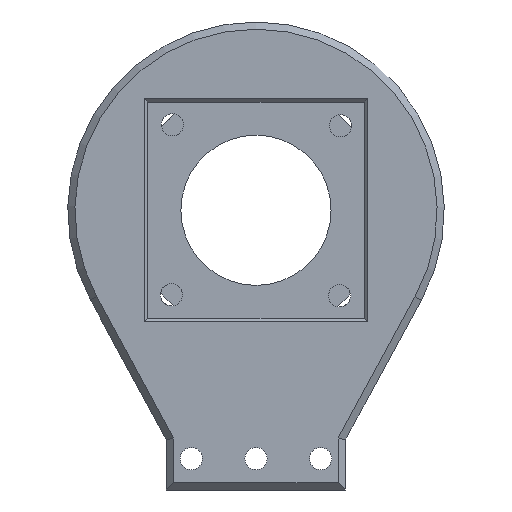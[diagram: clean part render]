
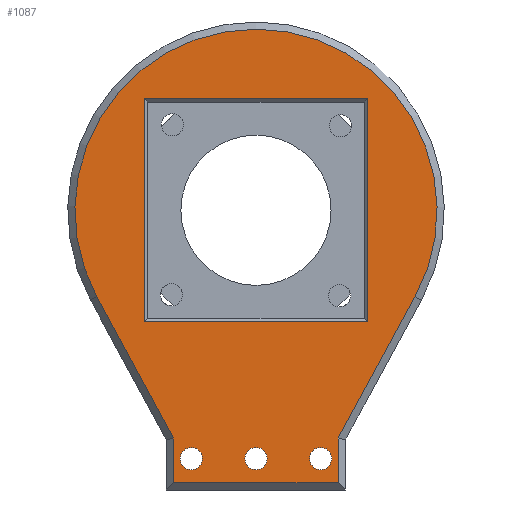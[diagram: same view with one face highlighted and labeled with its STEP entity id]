
A CAD part, front view. The second image highlights one B-rep face of the part: STEP entity #1087.
In plain terms, the highlighted planar face has unit normal (0, -1, 0).
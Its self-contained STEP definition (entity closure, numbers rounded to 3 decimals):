
#38=FACE_BOUND('',#184,.T.);
#39=FACE_BOUND('',#185,.T.);
#40=FACE_BOUND('',#186,.T.);
#41=FACE_BOUND('',#187,.T.);
#63=CIRCLE('',#1172,50.5);
#64=CIRCLE('',#1173,3.1);
#65=CIRCLE('',#1174,3.1);
#66=CIRCLE('',#1175,3.1);
#120=FACE_OUTER_BOUND('',#183,.T.);
#183=EDGE_LOOP('',(#793,#794,#795,#796,#797,#798));
#184=EDGE_LOOP('',(#799));
#185=EDGE_LOOP('',(#800));
#186=EDGE_LOOP('',(#801));
#187=EDGE_LOOP('',(#802,#803,#804,#805));
#290=LINE('',#1709,#395);
#293=LINE('',#1715,#398);
#294=LINE('',#1717,#399);
#295=LINE('',#1721,#400);
#296=LINE('',#1722,#401);
#297=LINE('',#1731,#402);
#298=LINE('',#1733,#403);
#299=LINE('',#1735,#404);
#300=LINE('',#1736,#405);
#395=VECTOR('',#1355,10.);
#398=VECTOR('',#1360,10.);
#399=VECTOR('',#1361,10.);
#400=VECTOR('',#1364,10.);
#401=VECTOR('',#1365,10.);
#402=VECTOR('',#1372,10.);
#403=VECTOR('',#1373,10.);
#404=VECTOR('',#1374,10.);
#405=VECTOR('',#1375,10.);
#495=VERTEX_POINT('',#1706);
#496=VERTEX_POINT('',#1708);
#498=VERTEX_POINT('',#1714);
#499=VERTEX_POINT('',#1716);
#500=VERTEX_POINT('',#1718);
#501=VERTEX_POINT('',#1720);
#502=VERTEX_POINT('',#1723);
#503=VERTEX_POINT('',#1725);
#504=VERTEX_POINT('',#1727);
#505=VERTEX_POINT('',#1729);
#506=VERTEX_POINT('',#1730);
#507=VERTEX_POINT('',#1732);
#508=VERTEX_POINT('',#1734);
#607=EDGE_CURVE('',#495,#496,#290,.T.);
#610=EDGE_CURVE('',#498,#495,#293,.T.);
#611=EDGE_CURVE('',#499,#498,#294,.T.);
#612=EDGE_CURVE('',#500,#499,#63,.T.);
#613=EDGE_CURVE('',#501,#500,#295,.T.);
#614=EDGE_CURVE('',#496,#501,#296,.T.);
#615=EDGE_CURVE('',#502,#502,#64,.T.);
#616=EDGE_CURVE('',#503,#503,#65,.T.);
#617=EDGE_CURVE('',#504,#504,#66,.T.);
#618=EDGE_CURVE('',#505,#506,#297,.T.);
#619=EDGE_CURVE('',#507,#505,#298,.T.);
#620=EDGE_CURVE('',#508,#507,#299,.T.);
#621=EDGE_CURVE('',#506,#508,#300,.T.);
#793=ORIENTED_EDGE('',*,*,#607,.F.);
#794=ORIENTED_EDGE('',*,*,#610,.F.);
#795=ORIENTED_EDGE('',*,*,#611,.F.);
#796=ORIENTED_EDGE('',*,*,#612,.F.);
#797=ORIENTED_EDGE('',*,*,#613,.F.);
#798=ORIENTED_EDGE('',*,*,#614,.F.);
#799=ORIENTED_EDGE('',*,*,#615,.T.);
#800=ORIENTED_EDGE('',*,*,#616,.T.);
#801=ORIENTED_EDGE('',*,*,#617,.T.);
#802=ORIENTED_EDGE('',*,*,#618,.F.);
#803=ORIENTED_EDGE('',*,*,#619,.F.);
#804=ORIENTED_EDGE('',*,*,#620,.F.);
#805=ORIENTED_EDGE('',*,*,#621,.F.);
#1043=PLANE('',#1171);
#1087=ADVANCED_FACE('',(#120,#38,#39,#40,#41),#1043,.F.);
#1171=AXIS2_PLACEMENT_3D('',#1713,#1358,#1359);
#1172=AXIS2_PLACEMENT_3D('',#1719,#1362,#1363);
#1173=AXIS2_PLACEMENT_3D('',#1724,#1366,#1367);
#1174=AXIS2_PLACEMENT_3D('',#1726,#1368,#1369);
#1175=AXIS2_PLACEMENT_3D('',#1728,#1370,#1371);
#1355=DIRECTION('',(-1.,0.,0.));
#1358=DIRECTION('center_axis',(0.,1.,0.));
#1359=DIRECTION('ref_axis',(1.,0.,0.));
#1360=DIRECTION('',(0.,0.,-1.));
#1361=DIRECTION('',(-0.478,0.,-0.878));
#1362=DIRECTION('center_axis',(0.,1.,0.));
#1363=DIRECTION('ref_axis',(1.,0.,0.));
#1364=DIRECTION('',(-0.476,0.,0.88));
#1365=DIRECTION('',(0.,0.,1.));
#1366=DIRECTION('center_axis',(0.,1.,0.));
#1367=DIRECTION('ref_axis',(1.,0.,0.));
#1368=DIRECTION('center_axis',(0.,1.,0.));
#1369=DIRECTION('ref_axis',(1.,0.,0.));
#1370=DIRECTION('center_axis',(0.,1.,0.));
#1371=DIRECTION('ref_axis',(1.,0.,0.));
#1372=DIRECTION('',(0.,0.,1.));
#1373=DIRECTION('',(1.,0.,0.));
#1374=DIRECTION('',(0.,0.,-1.));
#1375=DIRECTION('',(-1.,0.,0.));
#1706=CARTESIAN_POINT('',(-127.207,-5.,31.563));
#1708=CARTESIAN_POINT('',(-173.207,-5.,31.563));
#1709=CARTESIAN_POINT('',(-137.707,-5.,31.563));
#1713=CARTESIAN_POINT('Origin',(-150.207,-5.,38.311));
#1714=CARTESIAN_POINT('',(-127.207,-5.,44.068));
#1715=CARTESIAN_POINT('',(-127.207,-5.,40.935));
#1716=CARTESIAN_POINT('',(-105.787,-5.,83.413));
#1717=CARTESIAN_POINT('',(-120.335,-5.,56.691));
#1718=CARTESIAN_POINT('',(-194.557,-5.,83.529));
#1719=CARTESIAN_POINT('Origin',(-150.141,-5.,107.558));
#1720=CARTESIAN_POINT('',(-173.207,-5.,44.065));
#1721=CARTESIAN_POINT('',(-169.519,-5.,37.249));
#1722=CARTESIAN_POINT('',(-173.207,-5.,35.687));
#1723=CARTESIAN_POINT('',(-153.241,-5.,38.313));
#1724=CARTESIAN_POINT('Origin',(-150.141,-5.,38.313));
#1725=CARTESIAN_POINT('',(-171.241,-5.,38.313));
#1726=CARTESIAN_POINT('Origin',(-168.141,-5.,38.313));
#1727=CARTESIAN_POINT('',(-135.241,-5.,38.313));
#1728=CARTESIAN_POINT('Origin',(-132.141,-5.,38.313));
#1729=CARTESIAN_POINT('',(-118.991,-5.,76.408));
#1730=CARTESIAN_POINT('',(-118.991,-5.,138.708));
#1731=CARTESIAN_POINT('',(-118.991,-5.,88.01));
#1732=CARTESIAN_POINT('',(-181.291,-5.,76.408));
#1733=CARTESIAN_POINT('',(-135.099,-5.,76.408));
#1734=CARTESIAN_POINT('',(-181.291,-5.,138.708));
#1735=CARTESIAN_POINT('',(-181.291,-5.,57.86));
#1736=CARTESIAN_POINT('',(-165.249,-5.,138.708));
